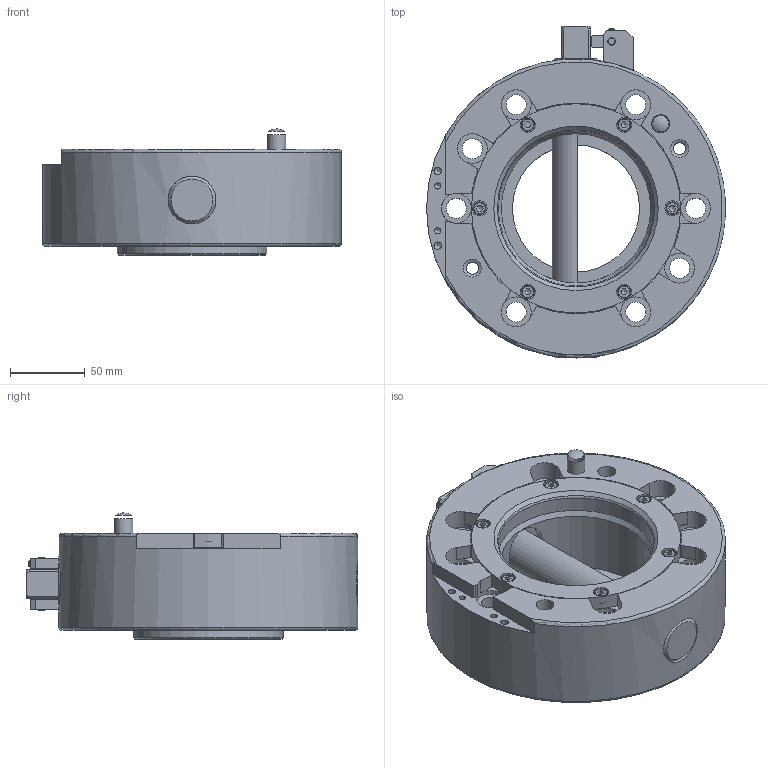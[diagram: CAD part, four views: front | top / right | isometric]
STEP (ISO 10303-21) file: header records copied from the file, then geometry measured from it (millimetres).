
FILE_DESCRIPTION(/* description */ (''),/* implementation_level */ '2;1');
FILE_NAME(/* name */ '\\dc01\daten\CAD\Standard\Daten\3D-Datenbank\Webseite 2020\SWS\200\G-SWS200-2OEN-M12.stp',/* time_stamp */ '2020-05-05T13:17:19+02:00',/* author */ ('ysplieth'),/* organization */ (''),/* preprocessor_version */ 'ST-DEVELOPER v17',/* originating_system */ 'Autodesk Inventor 2018',/* authorisation */ '');
FILE_SCHEMA (('AUTOMOTIVE_DESIGN { 1 0 10303 214 3 1 1 }'));
Length unit declared in the file: millimetre
Products named in the file (1): G-SWS200-2OEN-M12
Bounding box: 200 x 222 x 84.33 mm (x, y, z)
Volume: 1480925.4 mm3; surface area: 239458.5 mm2
Topology: 17 solids, 17 shells, 386 faces, 1089 edges, 756 vertices
Faces by surface type: plane 174, cylinder 134, cone 56, torus 20, sphere 2
Full cylindrical faces by diameter (mm): 3.242 x2, 3.3 x1, 4 x3, 4.134 x8, 4.5 x2, 5 x11, 5.1 x2, 5.5 x7, 6.647 x1, 7 x2, 8 x5, 8.5 x6, 9 x1, 10 x9, 12 x6, 13.5 x8, 20 x8, 32 x6, 85 x1, 100 x2, 104 x1, 120 x2, 140 x1, 200 x1
Entity records: 14003 total; most frequent: CARTESIAN_POINT 3231, DIRECTION 2221, ORIENTED_EDGE 2134, EDGE_CURVE 1067, AXIS2_PLACEMENT_3D 883, VERTEX_POINT 756, CIRCLE 496, EDGE_LOOP 491
